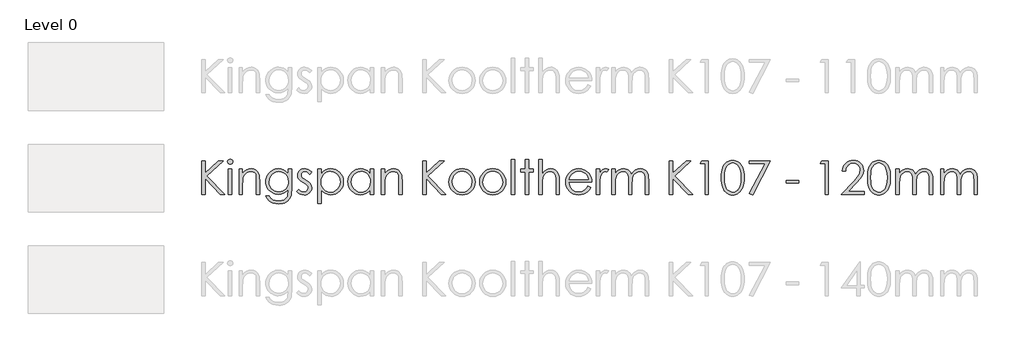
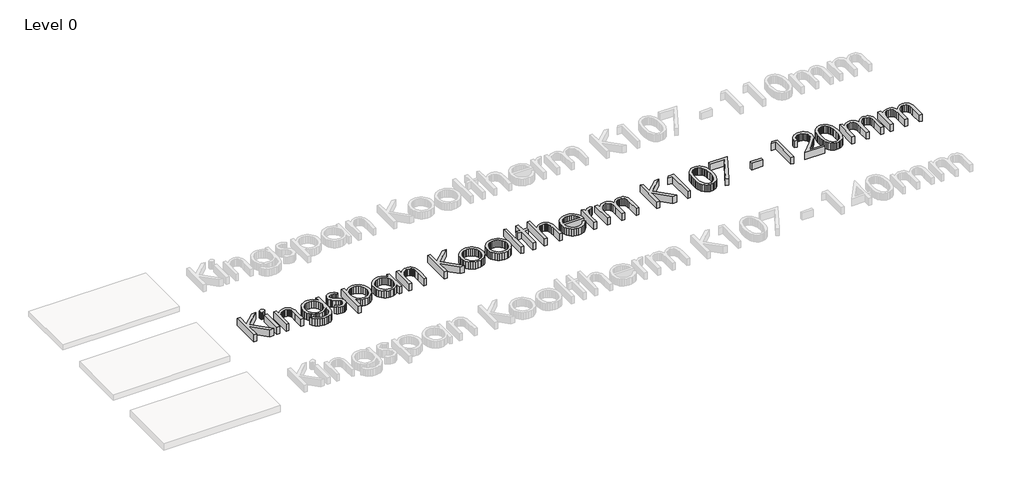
# One storey, part 3 of 13: 1 proxy.
"""IFC4 building model written with IfcOpenShell, lengths in millimetres."""

from ifc_helpers import new_model, si_unit, origin, origin_with_axes, place, context, project, spatial, polyline, outline, extrude, element, save

model = new_model("IFC4")

# Units and contexts
model_context = context("Model", 3, world=origin())
ifc_project = project(units=[si_unit("LENGTHUNIT", "METRE", prefix="MILLI")], contexts=[model_context])

# Site, building, storey
site = spatial("IfcSite", under=ifc_project)
building = spatial("IfcBuilding", under=site)
storey = spatial("IfcBuildingStorey", under=building, Name="Level 0", Elevation=0.0)

# Proxy
placement = place(None, origin())
element("IfcBuildingElementProxy", 1, Name="600mm KI_CenturyGothic", ObjectType="600mm KI_CenturyGothic", at=placement, inside=storey, context=model_context, shape_type="SweptSolid", body=[
    extrude(outline(polyline([(-3852.2663848, -12099.1034017), (-3792.944575, -12099.1034017), (-3792.944575, -12318.316027), (-3555.1938841, -12099.1034017), (-3471.6181051, -12099.1034017), (-3760.9664119, -12366.0515459), (-3441.9572002, -12692.3214999), (-3520.8984627, -12692.3214999), (-3792.944575, -12414.0960325), (-3792.944575, -12692.3214999), (-3852.2663848, -12692.3214999), (-3852.2663848, -12099.1034017)])), origin_with_axes(), (0.0, 0.0, 1.0), 150.0),
    extrude(outline(polyline([(-3348.1854852, -12069.4424967), (-3329.145347, -12072.7252792), (-3313.1176445, -12082.5736265), (-3302.226531, -12097.0178693), (-3298.5961598, -12114.088338), (-3302.226531, -12130.9270809), (-3313.1176445, -12145.2940817), (-3329.145347, -12155.142429), (-3348.1854852, -12158.4252115), (-3366.9938975, -12155.142429), (-3382.9443581, -12145.2940817), (-3393.8354717, -12130.9270809), (-3397.4658428, -12114.088338), (-3393.8354717, -12097.0178693), (-3382.9443581, -12082.5736265), (-3366.9938975, -12072.7252792), (-3348.1854852, -12069.4424967)])), origin_with_axes(), (0.0, 0.0, 1.0), 150.0),
    extrude(outline(polyline([(-3377.6919062, -12247.4079262), (-3318.3700964, -12247.4079262), (-3318.3700964, -12692.3214999), (-3377.6919062, -12692.3214999), (-3377.6919062, -12247.4079262)])), origin_with_axes(), (0.0, 0.0, 1.0), 150.0),
    extrude(outline(polyline([(-3189.8395084, -12247.4079262), (-3130.5176986, -12247.4079262), (-3130.5176986, -12326.5036726), (-3096.9946967, -12286.9944204), (-3060.0730495, -12259.303185), (-3019.7141359, -12242.9665147), (-2975.879335, -12237.5209579), (-2953.4357238, -12239.0995901), (-2932.2955704, -12243.8354865), (-2912.4588747, -12251.7286472), (-2893.9256368, -12262.7790723), (-2877.212412, -12276.5039994), (-2862.835756, -12292.4206667), (-2841.0921499, -12330.8292213), (-2833.6238199, -12355.2087086), (-2828.2892984, -12385.5551357), (-2824.0216812, -12464.1488095), (-2824.0216812, -12692.3214999), (-2883.343491, -12692.3214999), (-2883.343491, -12479.1337458), (-2883.343491, -12376.092998), (-2884.7290183, -12355.2956057), (-2889.8125035, -12337.2403023), (-2898.2849788, -12321.9270877), (-2910.1464442, -12309.355962), (-2924.7403432, -12299.5558909), (-2941.4101193, -12292.5558401), (-2980.977303, -12286.9557994), (-3005.3471351, -12289.1137461), (-3028.4038541, -12295.5875862), (-3050.1474602, -12306.3773197), (-3070.5779533, -12321.4829466), (-3088.6622225, -12339.7651482), (-3103.3671568, -12360.084606), (-3114.6927562, -12382.44132), (-3122.6390208, -12406.8352901), (-3128.5480292, -12453.9142525), (-3130.5176986, -12528.4141035), (-3130.5176986, -12692.3214999), (-3189.8395084, -12692.3214999), (-3189.8395084, -12247.4079262)])), origin_with_axes(), (0.0, 0.0, 1.0), 150.0),
    extrude(outline(polyline([(-2319.7862977, -12247.4079262), (-2260.4644879, -12247.4079262), (-2260.4644879, -12598.395301), (-2264.5196897, -12678.6496765), (-2269.588692, -12709.4499001), (-2276.6852953, -12734.0321474), (-2289.9371156, -12762.6454585), (-2307.2924139, -12787.7732271), (-2328.7511904, -12809.4154531), (-2354.3134448, -12827.5721366), (-2383.3226209, -12841.9343098), (-2415.122162, -12852.1930049), (-2449.7120682, -12858.348222), (-2487.0923395, -12860.3999611), (-2541.0458345, -12856.3833802), (-2589.206184, -12844.3336376), (-2630.260275, -12825.5059147), (-2662.8949946, -12801.1553932), (-2690.2000204, -12767.8061856), (-2715.2650299, -12721.9824048), (-2655.94322, -12721.9824048), (-2642.4355358, -12743.151524), (-2627.0933555, -12761.3951046), (-2609.9166791, -12776.7131468), (-2590.9055067, -12789.1056506), (-2569.7894914, -12798.6691682), (-2546.2982864, -12805.5002523), (-2492.1903075, -12810.9651195), (-2438.5071593, -12805.6354257), (-2415.083541, -12798.9733084), (-2393.93856, -12789.6463441), (-2359.6624492, -12765.6047903), (-2336.8567664, -12736.1176798), (-2329.3884364, -12717.4782342), (-2324.0539149, -12693.7697863), (-2319.7862977, -12631.1458835), (-2319.7862977, -12608.4367532), (-2354.757586, -12644.2190818), (-2396.6420279, -12670.6165148), (-2443.392712, -12686.8952536), (-2492.9627269, -12692.3214999), (-2522.4063889, -12690.4242447), (-2550.9521133, -12684.7324793), (-2578.5999001, -12675.2462036), (-2605.3497494, -12661.9654175), (-2630.1540674, -12645.4742634), (-2651.9652601, -12626.3568832), (-2670.7833277, -12604.6132772), (-2686.6082702, -12580.2434451), (-2699.1456025, -12553.9280817), (-2708.1008399, -12526.3478816), (-2713.4739824, -12497.5028447), (-2715.2650299, -12467.392971), (-2713.3967404, -12437.1044753), (-2707.7918722, -12407.8780563), (-2698.4504251, -12379.713714), (-2685.3723991, -12352.6114483), (-2668.9971079, -12327.4257483), (-2649.7638648, -12305.0111029), (-2627.67267, -12285.367512), (-2602.7235235, -12268.4949758), (-2575.9833294, -12254.943843), (-2548.5189922, -12245.2644624), (-2520.3305117, -12239.456834), (-2491.4178881, -12237.5209579), (-2444.5320306, -12242.4644421), (-2400.8903346, -12257.2948945), (-2359.6045177, -12283.8661218), (-2319.7862977, -12324.0319306), (-2319.7862977, -12247.4079262)]), holes=[polyline([(-2484.1571458, -12286.9557994), (-2529.0154023, -12292.9806707), (-2570.5908765, -12311.0552847), (-2606.2187212, -12339.7699758), (-2633.2340897, -12377.7150788), (-2650.2659375, -12421.9940208), (-2655.94322, -12469.7102292), (-2653.0080263, -12505.6229036), (-2644.2024452, -12538.2817613), (-2629.5264766, -12567.6868023), (-2608.9801206, -12593.8380266), (-2583.7606272, -12615.296803), (-2555.0652466, -12630.6245004), (-2522.8939786, -12639.8211189), (-2487.2468234, -12642.8866584), (-2451.3244937, -12639.845257), (-2419.1001219, -12630.7210528), (-2390.573708, -12615.5140459), (-2365.7452519, -12594.2242363), (-2345.6382095, -12567.9812872), (-2331.2760363, -12537.9148621), (-2322.6587323, -12504.024961), (-2319.7862977, -12466.3115838), (-2325.0773706, -12417.6105407), (-2340.9505892, -12374.3936754), (-2366.4983608, -12338.1672056), (-2400.8130926, -12310.4373492), (-2440.9982119, -12292.8261869), (-2484.1571458, -12286.9557994)])]), origin_with_axes(), (0.0, 0.0, 1.0), 150.0),
    extrude(outline(polyline([(-1904.5336289, -12298.6965743), (-1940.9918246, -12336.390641), (-1962.9575012, -12314.7628978), (-1984.6721416, -12299.3145098), (-2006.1357456, -12290.045477), (-2027.3483133, -12286.9557994), (-2052.181597, -12291.6289368), (-2073.2300256, -12305.6483489), (-2087.5970264, -12325.8857371), (-2092.3860267, -12349.212803), (-2088.4466878, -12370.7633042), (-2076.628671, -12391.2324183), (-2052.0657341, -12413.400855), (-2010.2006027, -12439.122421), (-1958.3326401, -12471.9888664), (-1939.8428507, -12487.8138088), (-1926.315856, -12503.2332311), (-1909.9791857, -12535.9065716), (-1904.5336289, -12572.4420092), (-1906.9474396, -12598.5884059), (-1914.1888714, -12622.6492701), (-1926.2579245, -12644.624602), (-1943.1545989, -12664.5144015), (-1963.6719892, -12681.0055557), (-1986.6031901, -12692.7849515), (-2011.9482016, -12699.852589), (-2039.7070237, -12702.2084682), (-2077.4397114, -12698.3270607), (-2113.3958344, -12686.6828383), (-2145.4512394, -12668.2027042), (-2171.4817731, -12643.8135617), (-2135.7959969, -12603.3387852), (-2114.0041146, -12624.9665283), (-2091.5749863, -12640.4149163), (-2068.5086121, -12649.6839491), (-2044.8049918, -12652.7736267), (-2013.637869, -12647.1349651), (-1987.4914724, -12630.2189802), (-1969.7644472, -12605.6560434), (-1963.8554388, -12577.0765256), (-1967.7561567, -12553.2860081), (-1979.4583106, -12532.2762005), (-2005.0253927, -12510.5712154), (-2050.2119275, -12483.7682622), (-2099.762632, -12453.1032121), (-2117.441381, -12437.9444814), (-2130.3890611, -12422.9016136), (-2146.3781427, -12390.7689666), (-2151.7078365, -12354.310771), (-2149.5305794, -12330.2643896), (-2142.9988078, -12308.3325063), (-2132.1125219, -12288.5151211), (-2116.8717217, -12270.812234), (-2098.309518, -12256.2473007), (-2077.4590218, -12245.8437769), (-2054.3202332, -12239.6016627), (-2028.8931521, -12237.5209579), (-1997.9481, -12241.3444339), (-1966.9064954, -12252.814862), (-1935.7683384, -12271.9322421), (-1904.5336289, -12298.6965743)])), origin_with_axes(), (0.0, 0.0, 1.0), 150.0),
    extrude(outline(polyline([(-1795.7769776, -12247.4079262), (-1736.4551678, -12247.4079262), (-1736.4551678, -12328.5119631), (-1700.9238754, -12288.2689124), (-1660.4490989, -12259.9211205), (-1614.9922173, -12243.1209986), (-1564.5146096, -12237.5209579), (-1520.0618732, -12241.7596094), (-1478.9305402, -12254.4755637), (-1441.1206107, -12275.668821), (-1406.6320845, -12305.3393811), (-1377.9077381, -12340.9768811), (-1357.3903478, -12380.070958), (-1345.0799137, -12422.6216116), (-1340.9764356, -12468.628842), (-1345.0412927, -12515.5291824), (-1357.235864, -12558.7508754), (-1377.5601494, -12598.293921), (-1406.014149, -12634.1583192), (-1440.2130179, -12663.9302594), (-1477.7719111, -12685.1959309), (-1518.6908288, -12697.9553339), (-1562.9697708, -12702.2084682), (-1612.6170277, -12696.743601), (-1658.0545988, -12680.3489992), (-1699.3211052, -12653.1019049), (-1736.4551678, -12615.07956), (-1736.4551678, -12850.5129928), (-1795.7769776, -12850.5129928), (-1795.7769776, -12247.4079262)]), holes=[polyline([(-1568.5311905, -12286.9557994), (-1602.5852307, -12290.2530647), (-1633.8392507, -12300.1448607), (-1662.2932503, -12316.6311872), (-1687.9472295, -12339.7120444), (-1709.1694525, -12367.6977647), (-1724.3281832, -12398.8986808), (-1733.4234216, -12433.3147926), (-1736.4551678, -12470.9461002), (-1731.048232, -12519.8016272), (-1714.8274246, -12563.4819442), (-1688.5265441, -12600.3263495), (-1652.8793888, -12628.6741414), (-1611.4390881, -12646.7487554), (-1567.7587711, -12652.7736267), (-1525.0632888, -12646.7101344), (-1485.0326535, -12628.5196576), (-1450.2544701, -12599.4187567), (-1423.3163435, -12560.6239924), (-1406.05277, -12515.9588407), (-1400.2982454, -12469.2467775), (-1405.9948385, -12422.3029886), (-1423.0846177, -12377.8695627), (-1449.8103289, -12339.5189395), (-1484.414718, -12310.8235589), (-1524.7157001, -12292.9227393), (-1568.5311905, -12286.9557994)])]), origin_with_axes(), (0.0, 0.0, 1.0), 150.0),
    extrude(outline(polyline([(-807.0801472, -12247.4079262), (-807.0801472, -12692.3214999), (-866.401957, -12692.3214999), (-866.401957, -12616.4699149), (-903.4780882, -12654.3184655), (-944.8797679, -12681.0441767), (-990.4525125, -12696.9173953), (-1040.0418379, -12702.2084682), (-1084.3159523, -12697.9553339), (-1125.2203871, -12685.1959309), (-1162.7551422, -12663.9302594), (-1196.9202178, -12634.1583192), (-1225.340424, -12598.293921), (-1245.6405713, -12558.7508754), (-1257.8206597, -12515.5291824), (-1261.8806892, -12468.628842), (-1257.7820388, -12422.6216116), (-1245.4860875, -12380.070958), (-1224.9928353, -12340.9768811), (-1196.3022822, -12305.3393811), (-1161.8475494, -12275.668821), (-1124.061758, -12254.4755637), (-1082.9449079, -12241.7596094), (-1038.4969991, -12237.5209579), (-987.7490446, -12243.1209986), (-942.0990581, -12259.9211205), (-921.2051134, -12272.6081091), (-901.6242816, -12288.2689124), (-866.401957, -12328.5119631), (-866.401957, -12247.4079262), (-807.0801472, -12247.4079262)]), holes=[polyline([(-1034.3259343, -12286.9557994), (-1078.1414247, -12292.9227393), (-1118.4424068, -12310.8235589), (-1153.0467959, -12339.5189395), (-1179.7725071, -12377.8695627), (-1196.8622863, -12422.3029886), (-1202.5588794, -12469.2467775), (-1196.8043548, -12515.9588407), (-1179.5407813, -12560.6239924), (-1152.6026548, -12599.4187567), (-1117.8244713, -12628.5196576), (-1077.6779731, -12646.7101344), (-1034.6349021, -12652.7736267), (-991.0125165, -12646.7487554), (-949.7460102, -12628.6741414), (-914.2726493, -12600.3263495), (-888.0297002, -12563.4819442), (-871.8088928, -12519.8016272), (-866.401957, -12470.9461002), (-869.4337032, -12433.3147926), (-878.5289416, -12398.8986808), (-893.6876723, -12367.6977647), (-914.9098953, -12339.7120444), (-940.5638746, -12316.6311872), (-969.0178742, -12300.1448607), (-1000.2718941, -12290.2530647), (-1034.3259343, -12286.9557994)])]), origin_with_axes(), (0.0, 0.0, 1.0), 150.0),
    extrude(outline(polyline([(-668.662591, -12247.4079262), (-609.3407811, -12247.4079262), (-609.3407811, -12326.5036726), (-575.8177792, -12286.9944204), (-538.896132, -12259.303185), (-498.5372184, -12242.9665147), (-454.7024175, -12237.5209579), (-432.2588064, -12239.0995901), (-411.1186529, -12243.8354865), (-391.2819572, -12251.7286472), (-372.7487193, -12262.7790723), (-356.0354946, -12276.5039994), (-341.6588385, -12292.4206667), (-319.9152324, -12330.8292213), (-312.4469024, -12355.2087086), (-307.1123809, -12385.5551357), (-302.8447637, -12464.1488095), (-302.8447637, -12692.3214999), (-362.1665735, -12692.3214999), (-362.1665735, -12479.1337458), (-362.1665735, -12376.092998), (-363.5521008, -12355.2956057), (-368.635586, -12337.2403023), (-377.1080613, -12321.9270877), (-388.9695267, -12309.355962), (-403.5634257, -12299.5558909), (-420.2332018, -12292.5558401), (-459.8003855, -12286.9557994), (-484.1702176, -12289.1137461), (-507.2269366, -12295.5875862), (-528.9705427, -12306.3773197), (-549.4010358, -12321.4829466), (-567.485305, -12339.7651482), (-582.1902393, -12360.084606), (-593.5158387, -12382.44132), (-601.4621033, -12406.8352901), (-607.3711117, -12453.9142525), (-609.3407811, -12528.4141035), (-609.3407811, -12692.3214999), (-668.662591, -12692.3214999), (-668.662591, -12247.4079262)])), origin_with_axes(), (0.0, 0.0, 1.0), 150.0),
    extrude(outline(polyline([(62.9730635, -12099.1034017), (122.2948734, -12099.1034017), (122.2948734, -12318.316027), (360.0455643, -12099.1034017), (443.6213432, -12099.1034017), (154.2730365, -12366.0515459), (473.2822481, -12692.3214999), (394.3409856, -12692.3214999), (122.2948734, -12414.0960325), (122.2948734, -12692.3214999), (62.9730635, -12692.3214999), (62.9730635, -12099.1034017)])), origin_with_axes(), (0.0, 0.0, 1.0), 150.0),
    extrude(outline(polyline([(760.1588128, -12237.5209579), (809.4681362, -12242.1458191), (854.3553585, -12256.0204025), (894.8204798, -12279.1447083), (930.8635, -12311.5187363), (957.7630055, -12346.7507161), (976.9769381, -12385.091684), (988.5052976, -12426.54164), (992.3480841, -12471.1005841), (988.283227, -12515.9153921), (976.0886558, -12557.8239721), (955.7643703, -12596.8263241), (927.3103707, -12632.9224481), (892.4742558, -12663.2350819), (853.0036246, -12684.8869632), (808.8984769, -12697.8780919), (760.1588128, -12702.2084682), (711.2839754, -12697.8780919), (667.0822753, -12684.8869632), (627.5537126, -12663.2350819), (592.6982872, -12632.9224481), (564.2442876, -12596.8263241), (543.9200022, -12557.8239721), (531.7254309, -12515.9153921), (527.6605738, -12471.1005841), (531.5033603, -12426.7347449), (543.0317198, -12385.4006518), (562.2456524, -12347.0983049), (589.145158, -12311.8277041), (625.2074886, -12279.3185026), (665.7305413, -12256.0976445), (710.7143161, -12242.1651295), (760.1588128, -12237.5209579)]), holes=[polyline([(760.004329, -12286.9557994), (725.7282181, -12290.3303067), (693.9624704, -12300.4538284), (664.7070856, -12317.3263647), (637.962064, -12340.9479154), (615.6584538, -12369.3584664), (599.7273037, -12400.5980035), (590.1686137, -12434.6665266), (586.9823836, -12471.5640357), (592.7948396, -12519.2995546), (610.2322075, -12563.6364281), (637.5758543, -12601.4270471), (673.1071466, -12629.5238028), (714.6439998, -12646.9611707), (760.004329, -12652.7736267), (805.3646581, -12646.9611707), (846.9015113, -12629.5238028), (882.4328037, -12601.4270471), (909.7764504, -12563.6364281), (927.2138183, -12519.2995546), (933.0262743, -12471.5640357), (929.8255614, -12434.6665266), (920.2234227, -12400.5980035), (904.2198583, -12369.3584664), (881.8148681, -12340.9479154), (854.9974321, -12317.3263647), (825.7565303, -12300.4538284), (794.0921625, -12290.3303067), (760.004329, -12286.9557994)])]), origin_with_axes(), (0.0, 0.0, 1.0), 150.0),
    extrude(outline(polyline([(1303.9420695, -12237.5209579), (1353.2513929, -12242.1458191), (1398.1386152, -12256.0204025), (1438.6037365, -12279.1447083), (1474.6467567, -12311.5187363), (1501.5462622, -12346.7507161), (1520.7601948, -12385.091684), (1532.2885543, -12426.54164), (1536.1313408, -12471.1005841), (1532.0664837, -12515.9153921), (1519.8719125, -12557.8239721), (1499.547627, -12596.8263241), (1471.0936274, -12632.9224481), (1436.2575126, -12663.2350819), (1396.7868813, -12684.8869632), (1352.6817336, -12697.8780919), (1303.9420695, -12702.2084682), (1255.0672321, -12697.8780919), (1210.865532, -12684.8869632), (1171.3369693, -12663.2350819), (1136.4815439, -12632.9224481), (1108.0275443, -12596.8263241), (1087.7032589, -12557.8239721), (1075.5086876, -12515.9153921), (1071.4438305, -12471.1005841), (1075.286617, -12426.7347449), (1086.8149766, -12385.4006518), (1106.0289091, -12347.0983049), (1132.9284147, -12311.8277041), (1168.9907453, -12279.3185026), (1209.5137981, -12256.0976445), (1254.4975728, -12242.1651295), (1303.9420695, -12237.5209579)]), holes=[polyline([(1303.7875857, -12286.9557994), (1269.5114748, -12290.3303067), (1237.7457271, -12300.4538284), (1208.4903423, -12317.3263647), (1181.7453207, -12340.9479154), (1159.4417105, -12369.3584664), (1143.5105604, -12400.5980035), (1133.9518704, -12434.6665266), (1130.7656404, -12471.5640357), (1136.5780963, -12519.2995546), (1154.0154643, -12563.6364281), (1181.359111, -12601.4270471), (1216.8904033, -12629.5238028), (1258.4272565, -12646.9611707), (1303.7875857, -12652.7736267), (1349.1479149, -12646.9611707), (1390.684768, -12629.5238028), (1426.2160604, -12601.4270471), (1453.5597071, -12563.6364281), (1470.997075, -12519.2995546), (1476.809531, -12471.5640357), (1473.6088181, -12434.6665266), (1464.0066795, -12400.5980035), (1448.003115, -12369.3584664), (1425.5981249, -12340.9479154), (1398.7806889, -12317.3263647), (1369.539787, -12300.4538284), (1337.8754193, -12290.3303067), (1303.7875857, -12286.9557994)])]), origin_with_axes(), (0.0, 0.0, 1.0), 150.0),
    extrude(outline(polyline([(1635.0010238, -12079.3294651), (1694.3228337, -12079.3294651), (1694.3228337, -12692.3214999), (1635.0010238, -12692.3214999), (1635.0010238, -12079.3294651)])), origin_with_axes(), (0.0, 0.0, 1.0), 150.0),
    extrude(outline(polyline([(1882.1752314, -12079.3294651), (1941.4970413, -12079.3294651), (1941.4970413, -12247.4079262), (2020.5927877, -12247.4079262), (2020.5927877, -12296.8427677), (1941.4970413, -12296.8427677), (1941.4970413, -12692.3214999), (1882.1752314, -12692.3214999), (1882.1752314, -12296.8427677), (1803.079485, -12296.8427677), (1803.079485, -12247.4079262), (1882.1752314, -12247.4079262), (1882.1752314, -12079.3294651)])), origin_with_axes(), (0.0, 0.0, 1.0), 150.0),
    extrude(outline(polyline([(2119.4624707, -12079.3294651), (2178.7842806, -12079.3294651), (2178.7842806, -12328.0485114), (2212.5583188, -12288.3461544), (2249.6151394, -12260.0756044), (2289.9161216, -12243.1596195), (2333.4226442, -12237.5209579), (2355.8662553, -12239.0995901), (2377.0064088, -12243.8354865), (2396.8431044, -12251.7286472), (2415.3763424, -12262.7790723), (2432.0895671, -12276.4895166), (2446.4662232, -12292.3627352), (2468.2098293, -12330.5974955), (2475.6781593, -12354.9045684), (2481.0126808, -12385.2654784), (2485.280298, -12464.1488095), (2485.280298, -12692.3214999), (2425.9584882, -12692.3214999), (2425.9584882, -12479.1337458), (2424.5681332, -12414.752589), (2420.3970685, -12376.092998), (2406.879729, -12337.2403023), (2397.1665551, -12321.9270877), (2385.4837117, -12309.355962), (2371.840854, -12299.5558909), (2356.2476374, -12292.5558401), (2319.2101273, -12286.9557994), (2296.3416854, -12289.1137461), (2274.6994594, -12295.5875862), (2254.2834492, -12306.3773197), (2235.0936547, -12321.4829466), (2218.1052556, -12339.7651482), (2204.2934312, -12360.084606), (2193.6581816, -12382.44132), (2186.1995068, -12406.8352901), (2180.6380871, -12453.6825267), (2178.7842806, -12528.4141035), (2178.7842806, -12692.3214999), (2119.4624707, -12692.3214999), (2119.4624707, -12079.3294651)])), origin_with_axes(), (0.0, 0.0, 1.0), 150.0),
    extrude(outline(polyline([(2991.0605203, -12544.0169753), (3038.950523, -12569.1978477), (3013.3255094, -12611.0822896), (2984.0315038, -12644.0452875), (2950.952643, -12669.1296074), (2913.9730643, -12687.3780157), (2872.4941426, -12698.5008551), (2825.9172528, -12702.2084682), (2774.4258447, -12697.7767119), (2728.8627554, -12684.481443), (2689.227985, -12662.3226615), (2655.5215335, -12631.3003674), (2628.6220279, -12594.6973431), (2609.4080954, -12555.7963712), (2597.8797358, -12514.5974515), (2594.0369493, -12471.1005841), (2597.3197318, -12430.2202874), (2607.1680791, -12391.618628), (2623.5819913, -12355.2956057), (2646.5614684, -12321.2512207), (2682.7493173, -12284.6192308), (2724.5758277, -12258.4535236), (2772.0409998, -12242.7540993), (2825.1448334, -12237.5209579), (2879.7935059, -12242.8892727), (2928.6490329, -12258.9942172), (2971.7114143, -12285.8357913), (3008.9806503, -12323.4139951), (3030.4539096, -12355.585263), (3045.9022976, -12391.541386), (3055.3258143, -12431.2823641), (3058.7244596, -12474.8081972), (2653.3587591, -12474.8081972), (2657.095338, -12512.0629503), (2666.6057518, -12545.8128504), (2681.8900007, -12576.0578975), (2702.9480845, -12602.7980916), (2728.3124066, -12624.6623882), (2756.5153699, -12640.2797429), (2787.5569744, -12649.6501557), (2821.4372203, -12652.7736267), (2854.9602222, -12649.761191), (2887.5563208, -12640.7238841), (2917.2944677, -12626.6851615), (2942.2436143, -12608.668479), (2965.725164, -12582.5027719), (2991.0605203, -12544.0169753)]), holes=[polyline([(2999.4026498, -12425.3733557), (2984.9777175, -12382.8516678), (2965.1844704, -12349.8307385), (2939.0766947, -12324.3022774), (2905.7081767, -12304.257994), (2867.7630738, -12291.2813481), (2827.9255433, -12286.9557994), (2795.503239, -12289.6689226), (2765.4368139, -12297.808292), (2737.726268, -12311.3739077), (2712.3716012, -12330.3657696), (2695.8321708, -12348.179692), (2681.4362043, -12369.9522638), (2669.1837016, -12395.683485), (2659.0746627, -12425.3733557), (2999.4026498, -12425.3733557)])]), origin_with_axes(), (0.0, 0.0, 1.0), 150.0),
    extrude(outline(polyline([(3137.820206, -12247.4079262), (3197.1420159, -12247.4079262), (3197.1420159, -12311.8277041), (3222.6897875, -12278.7874643), (3249.589293, -12255.6728138), (3277.7632906, -12242.0589219), (3307.1345382, -12237.5209579), (3330.4616041, -12241.305813), (3355.3335087, -12252.6603781), (3325.8270877, -12294.6799934), (3297.2475699, -12286.9557994), (3270.8308265, -12292.9034288), (3245.3409863, -12310.7463169), (3223.2884125, -12341.1023993), (3207.183468, -12384.5896114), (3199.6523789, -12442.7141712), (3197.1420159, -12540.1548783), (3197.1420159, -12692.3214999), (3137.820206, -12692.3214999), (3137.820206, -12247.4079262)])), origin_with_axes(), (0.0, 0.0, 1.0), 150.0),
    extrude(outline(polyline([(3414.6553185, -12247.4079262), (3473.9771284, -12247.4079262), (3473.9771284, -12323.5684789), (3503.5607913, -12287.0716623), (3533.9168737, -12261.9294109), (3577.3268439, -12243.6230712), (3622.8995884, -12237.5209579), (3653.7384329, -12240.668567), (3682.9165757, -12250.1113941), (3708.6767627, -12264.7873627), (3729.2617397, -12283.634396), (3746.0425511, -12309.0663047), (3760.3902414, -12343.4968994), (3775.16759, -12319.0981017), (3791.6925376, -12297.808292), (3809.965084, -12279.6274704), (3829.9852293, -12264.5556369), (3851.2798666, -12252.7279648), (3873.375889, -12244.2796277), (3896.2732965, -12239.2106253), (3919.9720892, -12237.5209579), (3962.3006723, -12243.3334139), (3981.4952943, -12250.5989839), (3999.3768034, -12260.7707818), (4015.4914031, -12273.53984), (4029.385297, -12288.5971907), (4050.5109676, -12325.5767694), (4057.8103309, -12348.9521114), (4063.0241619, -12377.5219739), (4067.1952266, -12450.2452603), (4067.1952266, -12692.3214999), (4007.8734168, -12692.3214999), (4007.8734168, -12446.6921311), (4005.4209852, -12385.5744462), (3998.0636904, -12347.1272706), (3984.7587663, -12322.6608861), (3964.4634466, -12303.4855746), (3938.3942919, -12291.0882432), (3907.7678627, -12286.9557994), (3888.1194442, -12288.5054659), (3869.3399976, -12293.1544651), (3834.3880198, -12311.7504621), (3805.6540182, -12340.6968791), (3785.8800816, -12377.9468046), (3779.1889985, -12402.1042213), (3774.4096535, -12433.1747916), (3770.5861775, -12516.0553931), (3770.5861775, -12692.3214999), (3711.2643677, -12692.3214999), (3711.2643677, -12461.9860352), (3708.850557, -12393.530366), (3701.6091252, -12351.2983353), (3688.3621325, -12325.0553863), (3667.9316394, -12304.5669617), (3641.6114484, -12291.35859), (3610.6953619, -12286.9557994), (3573.7544042, -12292.9999812), (3539.2465676, -12311.1325266), (3510.2808401, -12339.499629), (3489.9662099, -12376.2474819), (3477.9743988, -12428.0768236), (3473.9771284, -12501.6883923), (3473.9771284, -12692.3214999), (3414.6553185, -12692.3214999), (3414.6553185, -12247.4079262)])), origin_with_axes(), (0.0, 0.0, 1.0), 150.0),
    extrude(outline(polyline([(4433.0130538, -12099.1034017), (4492.3348637, -12099.1034017), (4492.3348637, -12318.316027), (4730.0855546, -12099.1034017), (4813.6613335, -12099.1034017), (4524.3130268, -12366.0515459), (4843.3222385, -12692.3214999), (4764.3809759, -12692.3214999), (4492.3348637, -12414.0960325), (4492.3348637, -12692.3214999), (4433.0130538, -12692.3214999), (4433.0130538, -12099.1034017)])), origin_with_axes(), (0.0, 0.0, 1.0), 150.0),
    extrude(outline(polyline([(5010.6282802, -12099.1034017), (5125.1008351, -12099.1034017), (5125.1008351, -12692.3214999), (5065.7790253, -12692.3214999), (5065.7790253, -12148.5382432), (4976.7963106, -12148.5382432), (5010.6282802, -12099.1034017)])), origin_with_axes(), (0.0, 0.0, 1.0), 150.0),
    extrude(outline(polyline([(5352.5011061, -12395.8669347), (5354.0797383, -12341.4355052), (5358.8156347, -12293.5406748), (5366.7087954, -12252.1824436), (5377.7592204, -12217.3608116), (5391.6869077, -12187.7192172), (5408.2118552, -12161.9010988), (5427.334063, -12139.9064564), (5449.053531, -12121.73529), (5472.747496, -12107.5082902), (5497.793195, -12097.3461475), (5524.190628, -12091.2488619), (5551.9397949, -12089.2164334), (5580.1427582, -12091.2633448), (5606.974677, -12097.404079), (5632.4355515, -12107.638636), (5656.5253815, -12121.9670159), (5678.7083011, -12140.3843909), (5698.4484443, -12162.8859335), (5715.7458112, -12189.4716437), (5730.6004018, -12220.1415214), (5742.5294539, -12255.6583309), (5751.0502054, -12296.7848363), (5756.1626563, -12343.5210375), (5757.8668066, -12395.8669347), (5756.1867944, -12448.0535203), (5751.1467578, -12494.6207548), (5742.7466968, -12535.5686382), (5730.9866115, -12570.8971704), (5716.2768496, -12601.4222195), (5699.0277589, -12627.9596535), (5679.2393394, -12650.5094723), (5656.9115912, -12669.071676), (5632.6527944, -12683.5690226), (5607.0712295, -12693.9242701), (5580.1668963, -12700.1374187), (5551.9397949, -12702.2084682), (5524.2147661, -12700.2001778), (5497.8897474, -12694.1753064), (5472.964739, -12684.1338543), (5449.4397407, -12670.0758212), (5427.8651013, -12652.0398282), (5408.7911698, -12630.0644964), (5392.2179461, -12604.1498255), (5378.1454301, -12574.2958158), (5366.9260384, -12539.2762513), (5358.9121871, -12497.8649163), (5354.1038764, -12450.0618107), (5352.5011061, -12395.8669347)]), holes=[polyline([(5411.8229159, -12395.7124508), (5416.206396, -12484.038609), (5421.6857461, -12519.0195525), (5429.3568363, -12547.8790723), (5439.1713903, -12572.1185586), (5451.0811319, -12593.2394015), (5465.0860611, -12611.2416011), (5481.1861779, -12626.1251574), (5516.4857445, -12646.1115094), (5534.8886366, -12651.1080973), (5553.7936014, -12652.7736267), (5572.7854634, -12651.1418907), (5591.1400794, -12646.2466828), (5625.9375733, -12626.665851), (5641.694929, -12611.9898824), (5655.4439943, -12594.0697524), (5667.1847692, -12572.9054608), (5676.9172536, -12548.4970078), (5686.3793912, -12515.1381451), (5693.138061, -12478.5544313), (5698.5449967, -12395.7124508), (5693.7173755, -12314.1063413), (5687.682849, -12279.4150551), (5679.2345118, -12248.7982811), (5668.652366, -12222.135329), (5656.2164137, -12199.3055082), (5641.9266548, -12180.3088186), (5625.7830894, -12165.1452603), (5590.7152487, -12145.2747712), (5572.4861509, -12140.307149), (5553.7936014, -12138.6512749), (5534.7776014, -12140.307149), (5516.3505711, -12145.2747712), (5481.2634199, -12165.1452603), (5465.3177869, -12179.9564022), (5451.3900996, -12197.8958428), (5439.480358, -12218.9635819), (5429.5885621, -12243.1596195), (5421.8160919, -12272.0143117), (5416.2643275, -12307.0580143), (5411.8229159, -12395.7124508)])]), origin_with_axes(), (0.0, 0.0, 1.0), 150.0),
    extrude(outline(polyline([(5846.8495213, -12099.1034017), (6222.5543169, -12099.1034017), (5906.1713311, -12702.2084682), (5852.2564571, -12679.8083056), (6130.9453762, -12148.5382432), (5846.8495213, -12148.5382432), (5846.8495213, -12099.1034017)])), origin_with_axes(), (0.0, 0.0, 1.0), 150.0),
    extrude(outline(polyline([(6499.3894294, -12445.1472923), (6726.7897004, -12445.1472923), (6726.7897004, -12494.5821338), (6499.3894294, -12494.5821338), (6499.3894294, -12445.1472923)])), origin_with_axes(), (0.0, 0.0, 1.0), 150.0),
    extrude(outline(polyline([(7136.3264656, -12099.1034017), (7250.7990205, -12099.1034017), (7250.7990205, -12692.3214999), (7191.4772106, -12692.3214999), (7191.4772106, -12148.5382432), (7102.4944959, -12148.5382432), (7136.3264656, -12099.1034017)])), origin_with_axes(), (0.0, 0.0, 1.0), 150.0),
    extrude(outline(polyline([(7557.2950379, -12277.0688311), (7497.9732281, -12277.0688311), (7502.4580882, -12237.8106152), (7513.5954104, -12202.2213914), (7531.3851947, -12170.3011597), (7555.827441, -12142.0499202), (7585.2228268, -12118.9352697), (7617.8720292, -12102.4248051), (7653.7750484, -12092.5185263), (7692.9318843, -12089.2164334), (7731.403198, -12092.5136987), (7766.0220699, -12102.4054946), (7796.7885001, -12118.8918211), (7823.7024885, -12141.9726783), (7845.5667851, -12169.533568), (7861.1841398, -12199.459992), (7870.5545527, -12231.7519505), (7873.6780236, -12266.4094434), (7867.5952208, -12315.2070389), (7849.3468125, -12360.8763359), (7813.5644839, -12412.763609), (7754.8799201, -12480.215133), (7602.095363, -12642.8866584), (7883.5649919, -12642.8866584), (7883.5649919, -12692.3214999), (7478.1992914, -12692.3214999), (7704.2092075, -12451.6356152), (7760.9434124, -12386.1151397), (7793.6553739, -12340.0210121), (7809.1810038, -12302.6552237), (7814.3562138, -12263.3197658), (7812.1065423, -12238.7133804), (7805.3575278, -12215.8739043), (7794.1091703, -12194.8013375), (7778.3614698, -12175.4956802), (7759.3502973, -12159.3762529), (7738.311524, -12147.8623762), (7715.2451497, -12140.9540502), (7690.1511745, -12138.6512749), (7663.8165006, -12140.9250845), (7639.8087401, -12147.7465133), (7618.1278932, -12159.1155613), (7598.7739596, -12175.0322286), (7582.5386694, -12195.0523738), (7570.2137523, -12218.731856), (7561.7992085, -12246.0706751), (7557.2950379, -12277.0688311)])), origin_with_axes(), (0.0, 0.0, 1.0), 150.0),
    extrude(outline(polyline([(7942.8868017, -12395.8669347), (7944.4654339, -12341.4355052), (7949.2013303, -12293.5406748), (7957.094491, -12252.1824436), (7968.1449161, -12217.3608116), (7982.0726034, -12187.7192172), (7998.5975509, -12161.9010988), (8017.7197586, -12139.9064564), (8039.4392266, -12121.73529), (8063.1331916, -12107.5082902), (8088.1788906, -12097.3461475), (8114.5763236, -12091.2488619), (8142.3254905, -12089.2164334), (8170.5284538, -12091.2633448), (8197.3603726, -12097.404079), (8222.8212471, -12107.638636), (8246.9110771, -12121.9670159), (8269.0939967, -12140.3843909), (8288.8341399, -12162.8859335), (8306.1315069, -12189.4716437), (8320.9860974, -12220.1415214), (8332.9151495, -12255.6583309), (8341.435901, -12296.7848363), (8346.5483519, -12343.5210375), (8348.2525022, -12395.8669347), (8346.57249, -12448.0535203), (8341.5324534, -12494.6207548), (8333.1323925, -12535.5686382), (8321.3723071, -12570.8971704), (8306.6625452, -12601.4222195), (8289.4134545, -12627.9596535), (8269.625035, -12650.5094723), (8247.2972868, -12669.071676), (8223.03849, -12683.5690226), (8197.4569251, -12693.9242701), (8170.5525919, -12700.1374187), (8142.3254905, -12702.2084682), (8114.6004617, -12700.2001778), (8088.2754431, -12694.1753064), (8063.3504346, -12684.1338543), (8039.8254363, -12670.0758212), (8018.2507969, -12652.0398282), (7999.1768654, -12630.0644964), (7982.6036417, -12604.1498255), (7968.5311258, -12574.2958158), (7957.311734, -12539.2762513), (7949.2978827, -12497.8649163), (7944.489572, -12450.0618107), (7942.8868017, -12395.8669347)]), holes=[polyline([(8002.2086116, -12395.7124508), (8006.5920916, -12484.038609), (8012.0714418, -12519.0195525), (8019.7425319, -12547.8790723), (8029.5570859, -12572.1185586), (8041.4668275, -12593.2394015), (8055.4717567, -12611.2416011), (8071.5718736, -12626.1251574), (8106.8714401, -12646.1115094), (8125.2743323, -12651.1080973), (8144.179297, -12652.7736267), (8163.171159, -12651.1418907), (8181.525775, -12646.2466828), (8216.3232689, -12626.665851), (8232.0806246, -12611.9898824), (8245.8296899, -12594.0697524), (8257.5704648, -12572.9054608), (8267.3029492, -12548.4970078), (8276.7650868, -12515.1381451), (8283.5237566, -12478.5544313), (8288.9306924, -12395.7124508), (8284.1030711, -12314.1063413), (8278.0685446, -12279.4150551), (8269.6202074, -12248.7982811), (8259.0380616, -12222.135329), (8246.6021093, -12199.3055082), (8232.3123504, -12180.3088186), (8216.168785, -12165.1452603), (8181.1009443, -12145.2747712), (8162.8718465, -12140.307149), (8144.179297, -12138.6512749), (8125.163297, -12140.307149), (8106.7362667, -12145.2747712), (8071.6491155, -12165.1452603), (8055.7034825, -12179.9564022), (8041.7757953, -12197.8958428), (8029.8660536, -12218.9635819), (8019.9742577, -12243.1596195), (8012.2017875, -12272.0143117), (8006.6500231, -12307.0580143), (8002.2086116, -12395.7124508)])]), origin_with_axes(), (0.0, 0.0, 1.0), 150.0),
    extrude(outline(polyline([(8447.1221852, -12247.4079262), (8506.4439951, -12247.4079262), (8506.4439951, -12323.5684789), (8536.027658, -12287.0716623), (8566.3837404, -12261.9294109), (8609.7937106, -12243.6230712), (8655.3664551, -12237.5209579), (8686.2052996, -12240.668567), (8715.3834424, -12250.1113941), (8741.1436294, -12264.7873627), (8761.7286063, -12283.634396), (8778.5094178, -12309.0663047), (8792.8571081, -12343.4968994), (8807.6344567, -12319.0981017), (8824.1594042, -12297.808292), (8842.4319506, -12279.6274704), (8862.4520959, -12264.5556369), (8883.7467332, -12252.7279648), (8905.8427557, -12244.2796277), (8928.7401632, -12239.2106253), (8952.4389559, -12237.5209579), (8994.7675389, -12243.3334139), (9013.962161, -12250.5989839), (9031.8436701, -12260.7707818), (9047.9582698, -12273.53984), (9061.8521637, -12288.5971907), (9082.9778343, -12325.5767694), (9090.2771976, -12348.9521114), (9095.4910285, -12377.5219739), (9099.6620933, -12450.2452603), (9099.6620933, -12692.3214999), (9040.3402835, -12692.3214999), (9040.3402835, -12446.6921311), (9037.8878519, -12385.5744462), (9030.5305571, -12347.1272706), (9017.225633, -12322.6608861), (8996.9303133, -12303.4855746), (8970.8611585, -12291.0882432), (8940.2347294, -12286.9557994), (8920.5863109, -12288.5054659), (8901.8068643, -12293.1544651), (8866.8548865, -12311.7504621), (8838.1208849, -12340.6968791), (8818.3469483, -12377.9468046), (8811.6558652, -12402.1042213), (8806.8765202, -12433.1747916), (8803.0530442, -12516.0553931), (8803.0530442, -12692.3214999), (8743.7312343, -12692.3214999), (8743.7312343, -12461.9860352), (8741.3174237, -12393.530366), (8734.0759919, -12351.2983353), (8720.8289992, -12325.0553863), (8700.3985061, -12304.5669617), (8674.0783151, -12291.35859), (8643.1622286, -12286.9557994), (8606.2212709, -12292.9999812), (8571.7134342, -12311.1325266), (8542.7477068, -12339.499629), (8522.4330766, -12376.2474819), (8510.4412654, -12428.0768236), (8506.4439951, -12501.6883923), (8506.4439951, -12692.3214999), (8447.1221852, -12692.3214999), (8447.1221852, -12247.4079262)])), origin_with_axes(), (0.0, 0.0, 1.0), 150.0),
    extrude(outline(polyline([(9238.0796495, -12247.4079262), (9297.4014594, -12247.4079262), (9297.4014594, -12323.5684789), (9326.9851223, -12287.0716623), (9357.3412047, -12261.9294109), (9400.7511749, -12243.6230712), (9446.3239194, -12237.5209579), (9477.1627639, -12240.668567), (9506.3409067, -12250.1113941), (9532.1010937, -12264.7873627), (9552.6860706, -12283.634396), (9569.4668821, -12309.0663047), (9583.8145724, -12343.4968994), (9598.591921, -12319.0981017), (9615.1168685, -12297.808292), (9633.389415, -12279.6274704), (9653.4095602, -12264.5556369), (9674.7041975, -12252.7279648), (9696.80022, -12244.2796277), (9719.6976275, -12239.2106253), (9743.3964202, -12237.5209579), (9785.7250032, -12243.3334139), (9804.9196253, -12250.5989839), (9822.8011344, -12260.7707818), (9838.9157341, -12273.53984), (9852.809628, -12288.5971907), (9873.9352986, -12325.5767694), (9881.2346619, -12348.9521114), (9886.4484928, -12377.5219739), (9890.6195576, -12450.2452603), (9890.6195576, -12692.3214999), (9831.2977478, -12692.3214999), (9831.2977478, -12446.6921311), (9828.8453162, -12385.5744462), (9821.4880214, -12347.1272706), (9808.1830973, -12322.6608861), (9787.8877776, -12303.4855746), (9761.8186229, -12291.0882432), (9731.1921937, -12286.9557994), (9711.5437752, -12288.5054659), (9692.7643286, -12293.1544651), (9657.8123508, -12311.7504621), (9629.0783492, -12340.6968791), (9609.3044126, -12377.9468046), (9602.6133295, -12402.1042213), (9597.8339845, -12433.1747916), (9594.0105085, -12516.0553931), (9594.0105085, -12692.3214999), (9534.6886987, -12692.3214999), (9534.6886987, -12461.9860352), (9532.274888, -12393.530366), (9525.0334562, -12351.2983353), (9511.7864635, -12325.0553863), (9491.3559704, -12304.5669617), (9465.0357794, -12291.35859), (9434.1196929, -12286.9557994), (9397.1787352, -12292.9999812), (9362.6708986, -12311.1325266), (9333.7051711, -12339.499629), (9313.3905409, -12376.2474819), (9301.3987298, -12428.0768236), (9297.4014594, -12501.6883923), (9297.4014594, -12692.3214999), (9238.0796495, -12692.3214999), (9238.0796495, -12247.4079262)])), origin_with_axes(), (0.0, 0.0, 1.0), 150.0),
])

save(model, "model.ifc")
